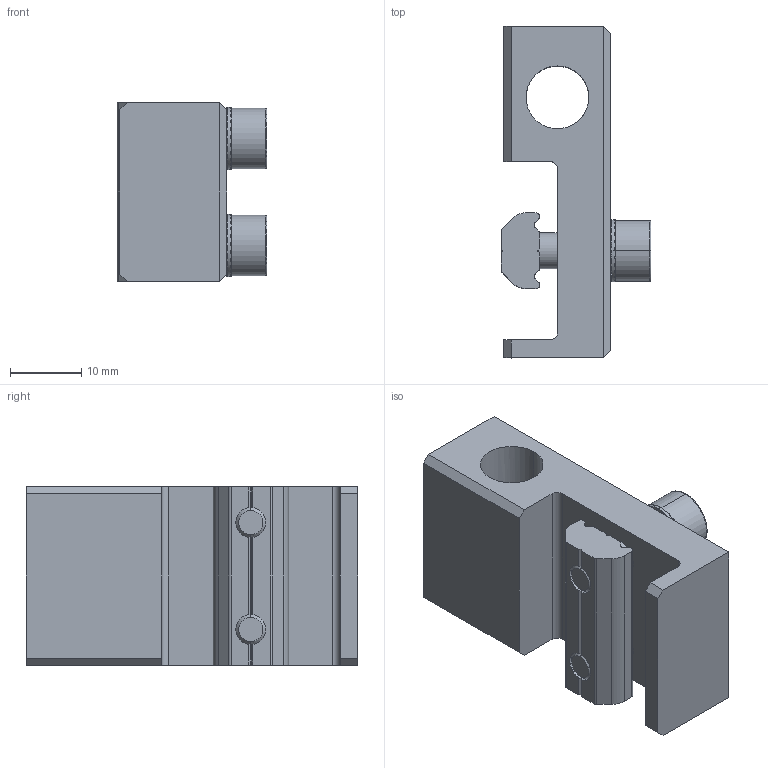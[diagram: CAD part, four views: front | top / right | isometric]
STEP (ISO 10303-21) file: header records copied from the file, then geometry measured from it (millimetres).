
FILE_DESCRIPTION (( 'STEP AP214' ), '1' );
FILE_NAME ('SVB-G14T.STEP', '2023-01-18T01:45:51', ( 'Windows User' ), ( 'P R C' ), 'SwSTEP 2.0', 'SolidWorks 2019', '' );
FILE_SCHEMA (( 'AUTOMOTIVE_DESIGN' ));
Length unit declared in the file: millimetre
Products named in the file (1): SVB-G14T
Bounding box: 21 x 46.5 x 25 mm (x, y, z)
Volume: 12604.3 mm3; surface area: 7290.1 mm2
Topology: 6 solids, 6 shells, 508 faces, 1479 edges, 978 vertices
Faces by surface type: plane 452, cylinder 48, cone 4, bspline 4
Entity records: 22940 total; most frequent: CARTESIAN_POINT 3476, ORIENTED_EDGE 2958, DIRECTION 2911, EDGE_CURVE 1479, VERTEX_POINT 978, AXIS2_PLACEMENT_3D 971, LINE 969, VECTOR 969
